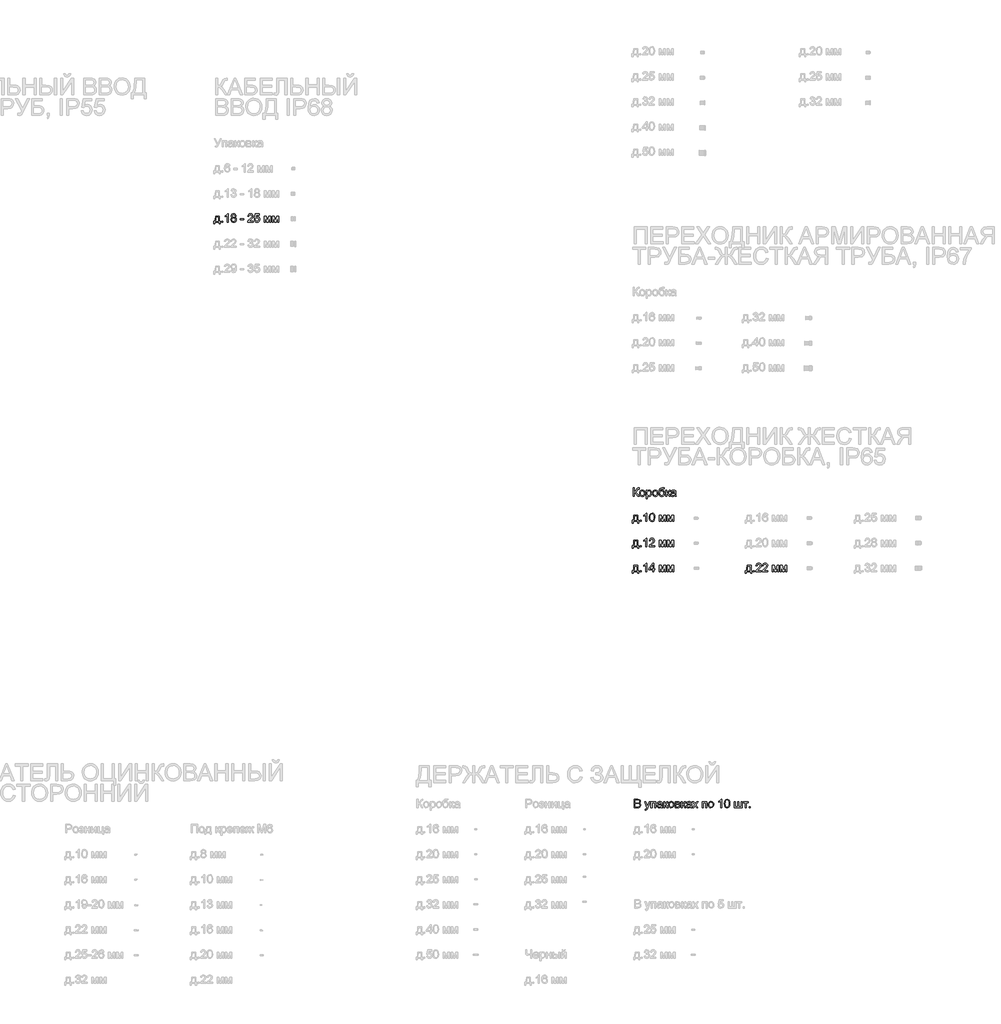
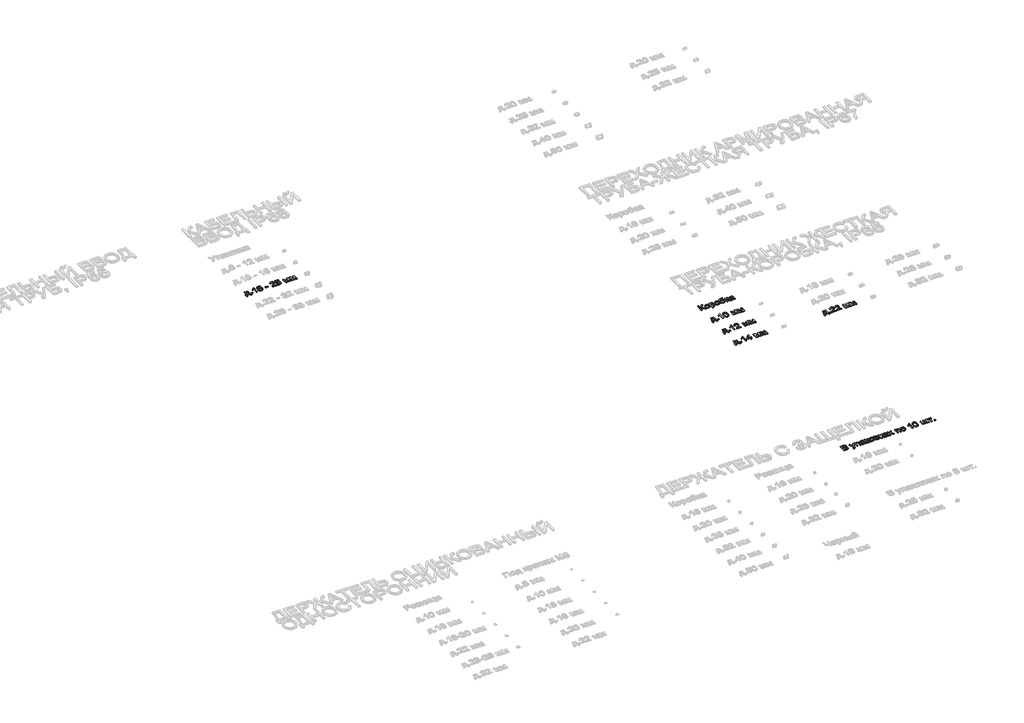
# One storey, part 54 of 98: 7 proxies.
"""IFC4 building model written with IfcOpenShell, lengths in millimetres."""

import ifcopenshell
import ifcopenshell.guid

model = None  # the IFC model being written
_history = None  # IfcOwnerHistory: only IFC2X3 demands one
_inside = {}  # id of a spatial element -> (the spatial element, [elements in it])
_under = {}  # id of a project, library or spatial element -> (it, [spatial elements below it])
_declared = {}  # id of a project -> (the project, [libraries it declares])
_typed = {}  # id of a type object -> (the type object, [elements of that type])
_made_of = {}  # id of a material, layer set ... -> (it, [elements and type objects made of it])


def new_model(schema):
    """Start an empty IFC model of exactly this schema.

    Asked for "IFC4X3", IfcOpenShell would pick the latest addendum, in which some entities
    have other attributes; the version numbers below select the first issue.
    IFC2X3 requires an IfcOwnerHistory on every rooted entity: one is made here for all.
    """
    global model, _history
    if schema == "IFC4X3":
        model = ifcopenshell.file(schema_version=(4, 3, 0, 0))
    else:
        model = ifcopenshell.file(schema=schema)
    _inside.clear()
    _under.clear()
    _declared.clear()
    _typed.clear()
    _made_of.clear()
    _history = None
    if model.schema == "IFC2X3":
        org = make("IfcOrganization", Name="unknown")
        user = make(
            "IfcPersonAndOrganization",
            ThePerson=make("IfcPerson", FamilyName="unknown"),
            TheOrganization=org,
        )
        app = make(
            "IfcApplication",
            ApplicationDeveloper=org,
            Version="unknown",
            ApplicationFullName="unknown",
            ApplicationIdentifier="unknown",
        )
        _history = make(
            "IfcOwnerHistory",
            OwningUser=user,
            OwningApplication=app,
            ChangeAction="ADDED",
            CreationDate=0,
        )
    return model


def make(cls, **values):
    """One entity of the class cls with the attributes given. An attribute that is None is left unset."""
    return model.create_entity(
        cls, **{name: value for name, value in values.items() if value is not None}
    )


def rooted(cls, **values):
    """An entity with a GlobalId (a new one), such as an element, a storey or a relation."""
    return make(cls, GlobalId=ifcopenshell.guid.new(), OwnerHistory=_history, **values)


def si_unit(unit_type, name, prefix=None):
    """IfcSIUnit, for example si_unit("LENGTHUNIT", "METRE", prefix="MILLI")."""
    return make("IfcSIUnit", UnitType=unit_type, Prefix=prefix, Name=name)


def assignment(units):
    """IfcUnitAssignment: the units of a project."""
    return None if units is None else make("IfcUnitAssignment", Units=units)


def point(xyz):
    """IfcCartesianPoint."""
    return None if xyz is None else make("IfcCartesianPoint", Coordinates=xyz)


def direction(xyz):
    """IfcDirection."""
    return None if xyz is None else make("IfcDirection", DirectionRatios=xyz)


def frame(location, z_axis=None, x_axis=None):
    """IfcAxis2Placement3D, a coordinate frame: its origin and axes. An axis left out is left unset."""
    return make(
        "IfcAxis2Placement3D",
        Location=point(location),
        Axis=direction(z_axis),
        RefDirection=direction(x_axis),
    )


def origin():
    """The frame at (0, 0, 0) with its axes left unset."""
    return frame((0.0, 0.0, 0.0))


def origin_with_axes():
    """The frame at (0, 0, 0) with the z axis (0, 0, 1) and the x axis (1, 0, 0) written out."""
    return frame((0.0, 0.0, 0.0), z_axis=(0.0, 0.0, 1.0), x_axis=(1.0, 0.0, 0.0))


def place(relative_to, where):
    """IfcLocalPlacement: puts the frame where relative to a parent placement (None: the world)."""
    return make(
        "IfcLocalPlacement", PlacementRelTo=relative_to, RelativePlacement=where
    )


def context(
    kind, dimensions, precision=None, world=None, true_north=None, identifier=None
):
    """IfcGeometricRepresentationContext, for example the 3D "Model" context."""
    return make(
        "IfcGeometricRepresentationContext",
        ContextIdentifier=identifier,
        ContextType=kind,
        CoordinateSpaceDimension=dimensions,
        Precision=precision,
        WorldCoordinateSystem=world,
        TrueNorth=true_north,
    )


def project(units=None, contexts=None):
    """IfcProject with its units and contexts."""
    return rooted(
        "IfcProject",
        Name="project",
        RepresentationContexts=contexts,
        UnitsInContext=assignment(units),
    )


def spatial(cls, under=None, at=None, **own):
    """A site, building, storey or space (cls), placed at a placement, below another one or the project."""
    s = rooted(cls, ObjectPlacement=at, **own)
    if under is not None:
        _under.setdefault(under.id(), (under, []))[1].append(s)
    return s


def polyline(points):
    """IfcPolyline through the points."""
    return make("IfcPolyline", Points=[point(p) for p in points])


def outline(outer, holes=None, kind="AREA"):
    """IfcArbitraryClosedProfileDef: a profile drawn as a closed curve; with holes, ...WithVoids."""
    if holes is None:
        return make("IfcArbitraryClosedProfileDef", ProfileType=kind, OuterCurve=outer)
    return make(
        "IfcArbitraryProfileDefWithVoids",
        ProfileType=kind,
        OuterCurve=outer,
        InnerCurves=holes,
    )


def extrude(swept, where, along, depth):
    """IfcExtrudedAreaSolid: the profile swept, set in the frame where, extruded along a direction by depth."""
    return make(
        "IfcExtrudedAreaSolid",
        SweptArea=swept,
        Position=where,
        ExtrudedDirection=direction(along),
        Depth=depth,
    )


def shape(context_of_items, identifier, shape_type, items):
    """IfcShapeRepresentation: the items that make up one representation, for example the "Body"."""
    return make(
        "IfcShapeRepresentation",
        ContextOfItems=context_of_items,
        RepresentationIdentifier=identifier,
        RepresentationType=shape_type,
        Items=items,
    )


def made_of(thing, what):
    """Note that an element or type object is made of a material, layer set ...; save() writes the relation."""
    if what is not None:
        _made_of.setdefault(what.id(), (what, []))[1].append(thing)
    return thing


def element(
    cls,
    number,
    at=None,
    inside=None,
    cuts=None,
    type_object=None,
    material=None,
    context=None,
    identifier="Body",
    shape_type=None,
    held_by="IfcProductDefinitionShape",
    body=None,
    shapes=None,
    **own,
):
    """One element of the class cls, such as IfcWall. Its Tag is "e" and its number.

    at: its placement. inside: the storey or other place that contains it. cuts: it is an
    opening in that element (IfcRelVoidsElement). A single representation is given by context,
    identifier, shape_type and body (its items); several are given by shapes. held_by: the class
    of the entity that holds the representations. save() writes the other relations.
    """
    e = rooted(cls, Tag="e%d" % number, ObjectPlacement=at, **own)
    if body is not None:
        shapes = [shape(context, identifier, shape_type, body)]
    if shapes is not None:
        e.Representation = make(held_by, Representations=shapes)
    if inside is not None:
        _inside.setdefault(inside.id(), (inside, []))[1].append(e)
    if cuts is not None:
        rooted(
            "IfcRelVoidsElement", RelatingBuildingElement=cuts, RelatedOpeningElement=e
        )
    if type_object is not None:
        _typed.setdefault(type_object.id(), (type_object, []))[1].append(e)
    return made_of(e, material)


def aggregate(whole, parts):
    """IfcRelAggregates: a whole, such as a stair, and the parts it consists of."""
    return rooted("IfcRelAggregates", RelatingObject=whole, RelatedObjects=parts)


def save(model, path):
    """Write the relations noted so far, then the file.

    IfcRelAggregates (storeys below a building ...), IfcRelContainedInSpatialStructure (elements
    in a storey), IfcRelDefinesByType, IfcRelAssociatesMaterial and IfcRelDeclares: one each for
    every whole, place, type object, material and project.
    """
    for whole, parts in _under.values():
        aggregate(whole, parts)
    for where, things in _inside.values():
        rooted(
            "IfcRelContainedInSpatialStructure",
            RelatedElements=things,
            RelatingStructure=where,
        )
    for kind, things in _typed.values():
        rooted("IfcRelDefinesByType", RelatedObjects=things, RelatingType=kind)
    for what, things in _made_of.values():
        rooted("IfcRelAssociatesMaterial", RelatedObjects=things, RelatingMaterial=what)
    for by, libraries in _declared.values():
        rooted("IfcRelDeclares", RelatingContext=by, RelatedDefinitions=libraries)
    model.write(path)


model = new_model("IFC4")

# Units and contexts
model_context = context("Model", 3, world=origin())
ifc_project = project(units=[si_unit("LENGTHUNIT", "METRE", prefix="MILLI")], contexts=[model_context])

# Site, building, storey
site = spatial("IfcSite", under=ifc_project)
building = spatial("IfcBuilding", under=site)
storey = spatial("IfcBuildingStorey", under=building, Name="Этаж 01", Elevation=0.0)

# Proxies
placement = place(None, origin())
element("IfcBuildingElementProxy", 1, Name="100", ObjectType="100", at=placement, inside=storey, context=model_context, shape_type="SweptSolid", body=[
    extrude(outline(polyline([(8349.7389883, -28137.0810385), (8362.2960271, -28137.0810385), (8362.2960271, -28181.0306742), (8376.3368566, -28177.7074735), (8386.1347804, -28160.8952663), (8393.0632246, -28146.8544368), (8400.9113739, -28139.9014671), (8412.1317747, -28137.0810385), (8420.3723314, -28137.2281913), (8420.3723314, -28149.78523), (8417.6009537, -28149.7116536), (8414.829576, -28149.6380772), (8405.0193895, -28152.6547096), (8397.5636477, -28165.5796304), (8388.6731662, -28181.3249798), (8380.0034138, -28186.5243786), (8389.6971044, -28192.2020241), (8399.2559049, -28204.0355616), (8420.3723314, -28237.5373486), (8405.8042044, -28237.5373486), (8387.9496649, -28209.2349605), (8375.3803634, -28194.458367), (8362.2960271, -28190.4484532), (8362.2960271, -28237.5373486), (8349.7389883, -28237.5373486), (8349.7389883, -28137.0810385)])), origin_with_axes(), (0.0, 0.0, 1.0), 10.0),
    extrude(outline(polyline([(8426.6508508, -28200.6510472), (8429.3670462, -28182.8639528), (8437.5156324, -28170.3620963), (8447.5833363, -28164.2368611), (8459.637603, -28162.195116), (8472.8292382, -28164.6813852), (8483.3659917, -28172.1401926), (8490.2729762, -28183.9829272), (8492.5753043, -28199.6209776), (8488.5040769, -28221.9636775), (8476.6460139, -28234.6065554), (8459.637603, -28239.1069785), (8446.2865523, -28236.6299064), (8435.7620615, -28229.1986901), (8428.9286535, -28217.1076351), (8426.6508508, -28200.6510472)]), holes=[polyline([(8439.2078896, -28200.6265218), (8440.6610235, -28211.9910097), (8445.0204251, -28220.0874793), (8451.5809873, -28224.9343246), (8459.637603, -28226.5499397), (8467.6574305, -28224.9251275), (8474.20573, -28220.0506911), (8478.5651317, -28211.8469226), (8480.0182656, -28200.2341143), (8478.5559346, -28189.2007201), (8474.1689418, -28181.2146152), (8467.6114453, -28176.3677699), (8459.637603, -28174.7521548), (8451.5809873, -28176.3616385), (8445.0204251, -28181.1900897), (8440.6610235, -28189.2681652), (8439.2078896, -28200.6265218)])]), origin_with_axes(), (0.0, 0.0, 1.0), 10.0),
    extrude(outline(polyline([(8506.701973, -28265.7906858), (8506.701973, -28163.7647458), (8519.2590117, -28163.7647458), (8519.2590117, -28176.07653), (8527.9410268, -28165.6654695), (8539.6641997, -28162.195116), (8555.5812274, -28167.0511583), (8565.9800251, -28180.7363686), (8569.4871668, -28200.0869615), (8565.526304, -28220.4308358), (8554.0238603, -28234.2877243), (8538.1436208, -28239.1069785), (8527.2175256, -28235.8818796), (8519.2590117, -28227.7271621), (8519.2590117, -28265.7906858), (8506.701973, -28265.7906858)]), holes=[polyline([(8519.2590117, -28201.2396584), (8520.6171094, -28212.4968475), (8524.6914025, -28220.3695222), (8530.7032075, -28225.0048353), (8537.8738407, -28226.5499397), (8545.1609699, -28224.949653), (8551.326059, -28220.148793), (8555.5291108, -28211.987944), (8556.930128, -28200.3076907), (8555.5628333, -28189.1118153), (8551.460949, -28181.128776), (8545.4583411, -28176.3463101), (8538.3888755, -28174.7521548), (8531.2918186, -28176.4474776), (8525.0592845, -28181.5334462), (8520.7090799, -28189.850645), (8519.2590117, -28201.2396584)])]), origin_with_axes(), (0.0, 0.0, 1.0), 10.0),
    extrude(outline(polyline([(8580.4745757, -28200.6510472), (8583.1907711, -28182.8639528), (8591.3393573, -28170.3620963), (8601.4070612, -28164.2368611), (8613.461328, -28162.195116), (8626.6529632, -28164.6813852), (8637.1897166, -28172.1401926), (8644.0967011, -28183.9829272), (8646.3990293, -28199.6209776), (8642.3278018, -28221.9636775), (8630.4697389, -28234.6065554), (8613.461328, -28239.1069785), (8600.1102772, -28236.6299064), (8589.5857865, -28229.1986901), (8582.7523784, -28217.1076351), (8580.4745757, -28200.6510472)]), holes=[polyline([(8593.0316145, -28200.6265218), (8594.4847484, -28211.9910097), (8598.84415, -28220.0874793), (8605.4047123, -28224.9343246), (8613.461328, -28226.5499397), (8621.4811554, -28224.9251275), (8628.029455, -28220.0506911), (8632.3888566, -28211.8469226), (8633.8419905, -28200.2341143), (8632.3796596, -28189.2007201), (8627.9926668, -28181.2146152), (8621.4351702, -28176.3677699), (8613.461328, -28174.7521548), (8605.4047123, -28176.3616385), (8598.84415, -28181.1900897), (8594.4847484, -28189.2681652), (8593.0316145, -28200.6265218)])]), origin_with_axes(), (0.0, 0.0, 1.0), 10.0),
    extrude(outline(polyline([(8712.3234828, -28135.5114086), (8723.3108917, -28135.5114086), (8720.0735302, -28145.3093324), (8713.6723834, -28148.8532623), (8698.294916, -28149.6380772), (8677.5831597, -28152.5320823), (8669.6369086, -28161.8027085), (8666.9513701, -28178.2102455), (8677.8284144, -28166.192767), (8691.8447184, -28162.195116), (8704.9106606, -28164.7365675), (8715.5117934, -28172.3609218), (8722.5383395, -28184.3201523), (8724.8805216, -28199.8662323), (8720.2329457, -28221.4731682), (8709.2087486, -28234.5084535), (8691.8447184, -28239.1069785), (8680.5108873, -28237.6262534), (8672.0158789, -28233.1840783), (8661.16336, -28218.0273401), (8657.3864382, -28185.862191), (8659.7684741, -28161.768986), (8666.9145819, -28147.075166), (8679.0025711, -28139.5795703), (8696.2102514, -28137.0810385), (8710.1897672, -28136.7989956), (8712.3234828, -28135.5114086)]), holes=[polyline([(8712.3234828, -28199.4738248), (8710.9623194, -28189.5931276), (8706.8788293, -28181.680599), (8700.318267, -28176.4842658), (8691.5258873, -28174.7521548), (8682.3594943, -28176.5823677), (8675.5598087, -28182.0730065), (8671.3475599, -28190.6231972), (8669.9434769, -28201.6320659), (8671.4947127, -28212.3037094), (8676.1484199, -28220.1365302), (8683.0768642, -28224.9465873), (8691.4523109, -28226.5499397), (8699.8706773, -28224.6952013), (8706.5354727, -28219.1309861), (8710.8764803, -28210.507219), (8712.3234828, -28199.4738248)])]), origin_with_axes(), (0.0, 0.0, 1.0), 10.0),
    extrude(outline(polyline([(8740.57682, -28163.7647458), (8753.1338588, -28163.7647458), (8753.1338588, -28195.1573428), (8761.5460937, -28192.9009999), (8768.4377498, -28179.7553499), (8774.1644462, -28168.4123217), (8779.2166922, -28164.721239), (8788.4014794, -28163.7647458), (8790.8049751, -28163.7647458), (8790.8049751, -28176.395361), (8787.4204607, -28176.3217846), (8781.2890942, -28177.6461598), (8776.9726121, -28185.911242), (8771.9081033, -28194.8507744), (8764.8079808, -28199.2285702), (8772.7297064, -28204.1152694), (8780.5042792, -28214.4098338), (8793.9442348, -28237.5373486), (8779.6704134, -28237.5373486), (8766.5002379, -28214.9003432), (8759.878362, -28205.3231486), (8753.1338588, -28203.005492), (8753.1338588, -28237.5373486), (8740.57682, -28237.5373486), (8740.57682, -28163.7647458)])), origin_with_axes(), (0.0, 0.0, 1.0), 10.0),
    extrude(outline(polyline([(8848.8812794, -28228.1195695), (8836.7043854, -28236.6299064), (8823.2521671, -28239.1069785), (8812.7583332, -28237.6170564), (8805.0174828, -28233.1472901), (8800.244214, -28226.3598673), (8798.6531243, -28217.9169755), (8801.05662, -28207.9841617), (8807.3719276, -28200.7736746), (8816.1643073, -28196.6533962), (8827.0290889, -28194.7649353), (8848.807703, -28190.4484532), (8848.8812794, -28187.6525501), (8845.4231886, -28178.3819238), (8831.5417747, -28174.7521548), (8818.8375831, -28177.1679132), (8812.7797929, -28185.7395637), (8800.2227542, -28184.1699338), (8805.655145, -28171.9072007), (8816.593503, -28164.721239), (8833.1604555, -28162.195116), (8848.3785073, -28164.4269334), (8856.9746833, -28170.0310025), (8860.8251815, -28178.5536021), (8861.4383182, -28189.541011), (8861.4383182, -28205.163733), (8862.0759803, -28226.9791354), (8864.5775779, -28237.5373486), (8852.0205391, -28237.5373486), (8848.8812794, -28228.1195695)]), holes=[polyline([(8848.8812794, -28203.005492), (8828.6232442, -28206.8559902), (8817.8197763, -28208.8916039), (8812.9269457, -28212.2025419), (8811.2101631, -28217.0340587), (8814.9502967, -28223.8276129), (8825.9254429, -28226.5499397), (8838.6296345, -28223.5455701), (8846.8211402, -28216.2737693), (8848.807703, -28206.5616846), (8848.8812794, -28203.005492)])]), origin_with_axes(), (0.0, 0.0, 1.0), 10.0),
])
element("IfcBuildingElementProxy", 2, Name="100", ObjectType="100", at=placement, inside=storey, context=model_context, shape_type="SweptSolid", body=[
    extrude(outline(polyline([(8359.1567674, -28463.7647458), (8406.2456628, -28463.7647458), (8406.2456628, -28524.9803098), (8415.6634419, -28524.9803098), (8415.6634419, -28557.9425366), (8403.1064031, -28557.9425366), (8403.1064031, -28537.5373486), (8351.3086182, -28537.5373486), (8351.3086182, -28557.9425366), (8338.7515794, -28557.9425366), (8338.7515794, -28524.9803098), (8346.5997287, -28524.9803098), (8356.2995506, -28501.031192), (8359.1567674, -28463.7647458)]), holes=[polyline([(8370.1441763, -28476.3217846), (8367.2011204, -28504.9307411), (8360.7263973, -28524.9803098), (8393.688624, -28524.9803098), (8393.688624, -28476.3217846), (8370.1441763, -28476.3217846)])]), origin_with_axes(), (0.0, 0.0, 1.0), 10.0),
    extrude(outline(polyline([(8432.9293702, -28537.5373486), (8432.9293702, -28524.9803098), (8445.486409, -28524.9803098), (8445.486409, -28537.5373486), (8432.9293702, -28537.5373486)])), origin_with_axes(), (0.0, 0.0, 1.0), 10.0),
    extrude(outline(polyline([(8512.9804923, -28537.5373486), (8500.4234536, -28537.5373486), (8500.4234536, -28459.25206), (8488.5286024, -28467.7256087), (8475.309376, -28474.0654417), (8475.309376, -28462.195116), (8493.7157385, -28450.4474176), (8504.8870884, -28437.0810385), (8512.9804923, -28437.0810385), (8512.9804923, -28537.5373486)])), origin_with_axes(), (0.0, 0.0, 1.0), 10.0),
    extrude(outline(polyline([(8542.8034594, -28488.1185339), (8546.4945421, -28459.2152718), (8557.4574256, -28442.5502175), (8575.7656862, -28437.0810385), (8590.4319151, -28440.3184), (8600.5609327, -28449.65034), (8606.4470446, -28464.5127726), (8608.7279129, -28488.1185339), (8605.0736185, -28516.8991687), (8594.1475232, -28533.6010113), (8585.9161636, -28537.7304867), (8575.7656862, -28539.1069785), (8562.7181381, -28536.7157455), (8552.8098497, -28529.5420466), (8545.305057, -28512.5520298), (8542.8034594, -28488.1185339)]), holes=[polyline([(8555.3604982, -28488.0940085), (8556.8320262, -28507.8462059), (8561.2466101, -28519.2781389), (8567.8194351, -28524.7319895), (8575.7656862, -28526.5499397), (8583.7119373, -28524.7258581), (8590.2847623, -28519.2536135), (8594.6993462, -28507.8155491), (8596.1708742, -28488.0940085), (8594.7483971, -28468.7863351), (8590.480966, -28457.2654973), (8583.9204037, -28451.5449322), (8575.6185334, -28449.6380772), (8567.7581214, -28451.3180717), (8561.4428138, -28456.358055), (8556.8810771, -28468.5962627), (8555.3604982, -28488.0940085)])]), origin_with_axes(), (0.0, 0.0, 1.0), 10.0),
    extrude(outline(polyline([(8662.0953277, -28463.7647458), (8683.7022636, -28463.7647458), (8700.3550552, -28522.8220688), (8718.3076966, -28463.7647458), (8739.0071902, -28463.7647458), (8739.0071902, -28537.5373486), (8726.4501514, -28537.5373486), (8726.4501514, -28478.1366691), (8708.3994082, -28537.5373486), (8691.9182948, -28537.5373486), (8674.6523665, -28475.291715), (8674.6523665, -28537.5373486), (8662.0953277, -28537.5373486), (8662.0953277, -28463.7647458)])), origin_with_axes(), (0.0, 0.0, 1.0), 10.0),
    extrude(outline(polyline([(8757.8427483, -28463.7647458), (8779.4496842, -28463.7647458), (8796.1024758, -28522.8220688), (8814.0551172, -28463.7647458), (8834.7546108, -28463.7647458), (8834.7546108, -28537.5373486), (8822.197572, -28537.5373486), (8822.197572, -28478.1366691), (8804.1468288, -28537.5373486), (8787.6657154, -28537.5373486), (8770.3997871, -28475.291715), (8770.3997871, -28537.5373486), (8757.8427483, -28537.5373486), (8757.8427483, -28463.7647458)])), origin_with_axes(), (0.0, 0.0, 1.0), 10.0),
])
element("IfcBuildingElementProxy", 3, Name="100", ObjectType="100", at=placement, inside=storey, context=model_context, shape_type="SweptSolid", body=[
    extrude(outline(polyline([(8359.1567674, -28763.7647458), (8406.2456628, -28763.7647458), (8406.2456628, -28824.9803098), (8415.6634419, -28824.9803098), (8415.6634419, -28857.9425366), (8403.1064031, -28857.9425366), (8403.1064031, -28837.5373486), (8351.3086182, -28837.5373486), (8351.3086182, -28857.9425366), (8338.7515794, -28857.9425366), (8338.7515794, -28824.9803098), (8346.5997287, -28824.9803098), (8356.2995506, -28801.031192), (8359.1567674, -28763.7647458)]), holes=[polyline([(8370.1441763, -28776.3217846), (8367.2011204, -28804.9307411), (8360.7263973, -28824.9803098), (8393.688624, -28824.9803098), (8393.688624, -28776.3217846), (8370.1441763, -28776.3217846)])]), origin_with_axes(), (0.0, 0.0, 1.0), 10.0),
    extrude(outline(polyline([(8432.9293702, -28837.5373486), (8432.9293702, -28824.9803098), (8445.486409, -28824.9803098), (8445.486409, -28837.5373486), (8432.9293702, -28837.5373486)])), origin_with_axes(), (0.0, 0.0, 1.0), 10.0),
    extrude(outline(polyline([(8512.9804923, -28837.5373486), (8500.4234536, -28837.5373486), (8500.4234536, -28759.25206), (8488.5286024, -28767.7256087), (8475.309376, -28774.0654417), (8475.309376, -28762.195116), (8493.7157385, -28750.4474176), (8504.8870884, -28737.0810385), (8512.9804923, -28737.0810385), (8512.9804923, -28837.5373486)])), origin_with_axes(), (0.0, 0.0, 1.0), 10.0),
    extrude(outline(polyline([(8607.1582831, -28824.9803098), (8607.1582831, -28837.5373486), (8541.2338296, -28837.5373486), (8542.5827302, -28828.879859), (8550.2101502, -28815.550268), (8565.9309742, -28800.9944038), (8587.6114864, -28780.074181), (8593.0316145, -28765.8494105), (8587.9180548, -28754.334704), (8574.5639383, -28749.6380772), (8560.6457362, -28754.2243394), (8555.3604982, -28766.9040055), (8542.8034594, -28765.3343757), (8545.8476829, -28753.1881385), (8552.429705, -28744.316051), (8562.206169, -28738.8897916), (8574.8337185, -28737.0810385), (8587.5532384, -28739.0921267), (8597.3113084, -28745.1253914), (8603.519317, -28754.1385003), (8605.5886533, -28765.089121), (8603.3568358, -28776.9962349), (8595.9378822, -28789.308019), (8577.9484527, -28806.5126337), (8563.502953, -28818.5914259), (8557.8375703, -28824.9803098), (8607.1582831, -28824.9803098)])), origin_with_axes(), (0.0, 0.0, 1.0), 10.0),
    extrude(outline(polyline([(8662.0953277, -28763.7647458), (8683.7022636, -28763.7647458), (8700.3550552, -28822.8220688), (8718.3076966, -28763.7647458), (8739.0071902, -28763.7647458), (8739.0071902, -28837.5373486), (8726.4501514, -28837.5373486), (8726.4501514, -28778.1366691), (8708.3994082, -28837.5373486), (8691.9182948, -28837.5373486), (8674.6523665, -28775.291715), (8674.6523665, -28837.5373486), (8662.0953277, -28837.5373486), (8662.0953277, -28763.7647458)])), origin_with_axes(), (0.0, 0.0, 1.0), 10.0),
    extrude(outline(polyline([(8757.8427483, -28763.7647458), (8779.4496842, -28763.7647458), (8796.1024758, -28822.8220688), (8814.0551172, -28763.7647458), (8834.7546108, -28763.7647458), (8834.7546108, -28837.5373486), (8822.197572, -28837.5373486), (8822.197572, -28778.1366691), (8804.1468288, -28837.5373486), (8787.6657154, -28837.5373486), (8770.3997871, -28775.291715), (8770.3997871, -28837.5373486), (8757.8427483, -28837.5373486), (8757.8427483, -28763.7647458)])), origin_with_axes(), (0.0, 0.0, 1.0), 10.0),
])
element("IfcBuildingElementProxy", 4, Name="100", ObjectType="100", at=placement, inside=storey, context=model_context, shape_type="SweptSolid", body=[
    extrude(outline(polyline([(8359.1567674, -29063.7647458), (8406.2456628, -29063.7647458), (8406.2456628, -29124.9803098), (8415.6634419, -29124.9803098), (8415.6634419, -29157.9425366), (8403.1064031, -29157.9425366), (8403.1064031, -29137.5373486), (8351.3086182, -29137.5373486), (8351.3086182, -29157.9425366), (8338.7515794, -29157.9425366), (8338.7515794, -29124.9803098), (8346.5997287, -29124.9803098), (8356.2995506, -29101.031192), (8359.1567674, -29063.7647458)]), holes=[polyline([(8370.1441763, -29076.3217846), (8367.2011204, -29104.9307411), (8360.7263973, -29124.9803098), (8393.688624, -29124.9803098), (8393.688624, -29076.3217846), (8370.1441763, -29076.3217846)])]), origin_with_axes(), (0.0, 0.0, 1.0), 10.0),
    extrude(outline(polyline([(8432.9293702, -29137.5373486), (8432.9293702, -29124.9803098), (8445.486409, -29124.9803098), (8445.486409, -29137.5373486), (8432.9293702, -29137.5373486)])), origin_with_axes(), (0.0, 0.0, 1.0), 10.0),
    extrude(outline(polyline([(8512.9804923, -29137.5373486), (8500.4234536, -29137.5373486), (8500.4234536, -29059.25206), (8488.5286024, -29067.7256087), (8475.309376, -29074.0654417), (8475.309376, -29062.195116), (8493.7157385, -29050.4474176), (8504.8870884, -29037.0810385), (8512.9804923, -29037.0810385), (8512.9804923, -29137.5373486)])), origin_with_axes(), (0.0, 0.0, 1.0), 10.0),
    extrude(outline(polyline([(8583.6138354, -29137.5373486), (8583.6138354, -29113.9929009), (8538.0945699, -29113.9929009), (8538.0945699, -29101.4358622), (8586.7530951, -29038.6506683), (8596.1708742, -29038.6506683), (8596.1708742, -29101.4358622), (8608.7279129, -29101.4358622), (8608.7279129, -29113.9929009), (8596.1708742, -29113.9929009), (8596.1708742, -29137.5373486), (8583.6138354, -29137.5373486)]), holes=[polyline([(8583.6138354, -29101.4358622), (8583.6138354, -29062.6365744), (8553.5456137, -29101.4358622), (8583.6138354, -29101.4358622)])]), origin_with_axes(), (0.0, 0.0, 1.0), 10.0),
    extrude(outline(polyline([(8662.0953277, -29063.7647458), (8683.7022636, -29063.7647458), (8700.3550552, -29122.8220688), (8718.3076966, -29063.7647458), (8739.0071902, -29063.7647458), (8739.0071902, -29137.5373486), (8726.4501514, -29137.5373486), (8726.4501514, -29078.1366691), (8708.3994082, -29137.5373486), (8691.9182948, -29137.5373486), (8674.6523665, -29075.291715), (8674.6523665, -29137.5373486), (8662.0953277, -29137.5373486), (8662.0953277, -29063.7647458)])), origin_with_axes(), (0.0, 0.0, 1.0), 10.0),
    extrude(outline(polyline([(8757.8427483, -29063.7647458), (8779.4496842, -29063.7647458), (8796.1024758, -29122.8220688), (8814.0551172, -29063.7647458), (8834.7546108, -29063.7647458), (8834.7546108, -29137.5373486), (8822.197572, -29137.5373486), (8822.197572, -29078.1366691), (8804.1468288, -29137.5373486), (8787.6657154, -29137.5373486), (8770.3997871, -29075.291715), (8770.3997871, -29137.5373486), (8757.8427483, -29137.5373486), (8757.8427483, -29063.7647458)])), origin_with_axes(), (0.0, 0.0, 1.0), 10.0),
])
element("IfcBuildingElementProxy", 5, Name="100", ObjectType="100", at=placement, inside=storey, context=model_context, shape_type="SweptSolid", body=[
    extrude(outline(polyline([(9711.8671726, -29063.7647458), (9758.956068, -29063.7647458), (9758.956068, -29124.9803098), (9768.3738471, -29124.9803098), (9768.3738471, -29157.9425366), (9755.8168083, -29157.9425366), (9755.8168083, -29137.5373486), (9704.0190234, -29137.5373486), (9704.0190234, -29157.9425366), (9691.4619846, -29157.9425366), (9691.4619846, -29124.9803098), (9699.3101339, -29124.9803098), (9709.0099558, -29101.031192), (9711.8671726, -29063.7647458)]), holes=[polyline([(9722.8545816, -29076.3217846), (9719.9115256, -29104.9307411), (9713.4368025, -29124.9803098), (9746.3990293, -29124.9803098), (9746.3990293, -29076.3217846), (9722.8545816, -29076.3217846)])]), origin_with_axes(), (0.0, 0.0, 1.0), 10.0),
    extrude(outline(polyline([(9785.6397754, -29137.5373486), (9785.6397754, -29124.9803098), (9798.1968142, -29124.9803098), (9798.1968142, -29137.5373486), (9785.6397754, -29137.5373486)])), origin_with_axes(), (0.0, 0.0, 1.0), 10.0),
    extrude(outline(polyline([(9882.9568259, -29124.9803098), (9882.9568259, -29137.5373486), (9817.0323723, -29137.5373486), (9818.381273, -29128.879859), (9826.008693, -29115.550268), (9841.7295169, -29100.9944038), (9863.4100292, -29080.074181), (9868.8301572, -29065.8494105), (9863.7165975, -29054.334704), (9850.3624811, -29049.6380772), (9836.4442789, -29054.2243394), (9831.1590409, -29066.9040055), (9818.6020022, -29065.3343757), (9821.6462257, -29053.1881385), (9828.2282477, -29044.316051), (9838.0047117, -29038.8897916), (9850.6322612, -29037.0810385), (9863.3517812, -29039.0921267), (9873.1098511, -29045.1253914), (9879.3178598, -29054.1385003), (9881.387196, -29065.089121), (9879.1553786, -29076.9962349), (9871.736425, -29089.308019), (9853.7469954, -29106.5126337), (9839.3014958, -29118.5914259), (9833.636113, -29124.9803098), (9882.9568259, -29124.9803098)])), origin_with_axes(), (0.0, 0.0, 1.0), 10.0),
    extrude(outline(polyline([(9959.8686883, -29124.9803098), (9959.8686883, -29137.5373486), (9893.9442348, -29137.5373486), (9895.2931354, -29128.879859), (9902.9205555, -29115.550268), (9918.6413794, -29100.9944038), (9940.3218916, -29080.074181), (9945.7420197, -29065.8494105), (9940.62846, -29054.334704), (9927.2743435, -29049.6380772), (9913.3561414, -29054.2243394), (9908.0709034, -29066.9040055), (9895.5138646, -29065.3343757), (9898.5580881, -29053.1881385), (9905.1401102, -29044.316051), (9914.9165742, -29038.8897916), (9927.5441237, -29037.0810385), (9940.2636437, -29039.0921267), (9950.0217136, -29045.1253914), (9956.2297223, -29054.1385003), (9958.2990585, -29065.089121), (9956.067241, -29076.9962349), (9948.6482875, -29089.308019), (9930.6588579, -29106.5126337), (9916.2133582, -29118.5914259), (9910.5479755, -29124.9803098), (9959.8686883, -29124.9803098)])), origin_with_axes(), (0.0, 0.0, 1.0), 10.0),
    extrude(outline(polyline([(10014.8057329, -29063.7647458), (10036.4126688, -29063.7647458), (10053.0654604, -29122.8220688), (10071.0181018, -29063.7647458), (10091.7175954, -29063.7647458), (10091.7175954, -29137.5373486), (10079.1605566, -29137.5373486), (10079.1605566, -29078.1366691), (10061.1098134, -29137.5373486), (10044.6287, -29137.5373486), (10027.3627717, -29075.291715), (10027.3627717, -29137.5373486), (10014.8057329, -29137.5373486), (10014.8057329, -29063.7647458)])), origin_with_axes(), (0.0, 0.0, 1.0), 10.0),
    extrude(outline(polyline([(10110.5531535, -29063.7647458), (10132.1600894, -29063.7647458), (10148.812881, -29122.8220688), (10166.7655224, -29063.7647458), (10187.465016, -29063.7647458), (10187.465016, -29137.5373486), (10174.9079772, -29137.5373486), (10174.9079772, -29078.1366691), (10156.857234, -29137.5373486), (10140.3761206, -29137.5373486), (10123.1101923, -29075.291715), (10123.1101923, -29137.5373486), (10110.5531535, -29137.5373486), (10110.5531535, -29063.7647458)])), origin_with_axes(), (0.0, 0.0, 1.0), 10.0),
])
element("IfcBuildingElementProxy", 6, Name="100", ObjectType="100", at=placement, inside=storey, context=model_context, shape_type="SweptSolid", body=[
    extrude(outline(polyline([(8365.3429127, -31959.5121665), (8365.3429127, -31859.0558563), (8403.6762166, -31859.0558563), (8422.4504611, -31862.011175), (8433.5359719, -31871.0978603), (8437.5458857, -31883.9492046), (8434.173634, -31895.6846403), (8423.9833028, -31904.5751218), (8436.3564006, -31913.94385), (8440.6851454, -31929.5665721), (8437.7298267, -31943.0678413), (8430.408975, -31952.6818241), (8419.4828797, -31957.7831211), (8403.3819111, -31959.5121665), (8365.3429127, -31959.5121665)]), holes=[polyline([(8377.8999515, -31899.8662323), (8400.8312626, -31899.8662323), (8414.2221672, -31898.7871118), (8422.2787829, -31894.1395359), (8424.9888469, -31885.9602929), (8422.4627239, -31877.7687871), (8415.2277113, -31872.9250075), (8399.0899544, -31871.6128951), (8377.8999515, -31871.6128951), (8377.8999515, -31899.8662323)]), polyline([(8377.8999515, -31946.9551277), (8403.6516912, -31946.9551277), (8412.9713684, -31946.4646184), (8420.8563058, -31943.7300289), (8426.0802302, -31938.1504853), (8428.1281066, -31929.6891994), (8425.7246109, -31919.9280638), (8417.9377753, -31914.1032655), (8402.4254179, -31912.4232711), (8377.8999515, -31912.4232711), (8377.8999515, -31946.9551277)])]), origin_with_axes(), (0.0, 0.0, 1.0), 10.0),
    extrude(outline(polyline([(8495.62219, -31987.7655037), (8494.0525601, -31975.6744488), (8500.4291814, -31976.7780948), (8506.3888697, -31975.3924059), (8510.0431642, -31971.529645), (8513.4767295, -31962.2835442), (8514.4577481, -31959.2423863), (8487.7740407, -31885.7395637), (8501.0177926, -31885.7395637), (8515.1689867, -31926.6970925), (8520.0986054, -31943.080104), (8525.0282241, -31928.6100789), (8539.5718257, -31885.7395637), (8552.7174756, -31885.7395637), (8527.0393124, -31961.278), (8520.3683855, -31977.6610116), (8513.084322, -31986.5147049), (8503.2986609, -31989.3351335), (8495.62219, -31987.7655037)])), origin_with_axes(), (0.0, 0.0, 1.0), 10.0),
    extrude(outline(polyline([(8563.1162734, -31885.7395637), (8619.6229478, -31885.7395637), (8619.6229478, -31959.5121665), (8607.065909, -31959.5121665), (8607.065909, -31898.2966025), (8575.6733121, -31898.2966025), (8575.6733121, -31959.5121665), (8563.1162734, -31959.5121665), (8563.1162734, -31885.7395637)])), origin_with_axes(), (0.0, 0.0, 1.0), 10.0),
    extrude(outline(polyline([(8685.5474014, -31950.0943874), (8673.3705073, -31958.6047242), (8659.918289, -31961.0817963), (8649.4244551, -31959.5918742), (8641.6836048, -31955.122108), (8636.9103359, -31948.3346852), (8635.3192463, -31939.8917934), (8637.722742, -31929.9589795), (8644.0380496, -31922.7484924), (8652.8304292, -31918.6282141), (8663.6952108, -31916.7397532), (8685.473825, -31912.4232711), (8685.5474014, -31909.6273679), (8682.0893106, -31900.3567416), (8668.2078966, -31896.7269726), (8655.5037051, -31899.1427311), (8649.4459149, -31907.7143815), (8636.8888761, -31906.1447517), (8642.3212669, -31893.8820185), (8653.2596249, -31886.6960569), (8669.8265774, -31884.1699338), (8685.0446293, -31886.4017513), (8693.6408052, -31892.0058203), (8697.4913035, -31900.5284199), (8698.1044401, -31911.5158288), (8698.1044401, -31927.1385509), (8698.7421022, -31948.9539532), (8701.2436998, -31959.5121665), (8688.686661, -31959.5121665), (8685.5474014, -31950.0943874)]), holes=[polyline([(8685.5474014, -31924.9803098), (8665.2893661, -31928.8308081), (8654.4858982, -31930.8664218), (8649.5930677, -31934.1773597), (8647.876285, -31939.0088766), (8651.6164187, -31945.8024308), (8662.5915649, -31948.5247575), (8675.2957564, -31945.5203879), (8683.4872622, -31938.2485871), (8685.473825, -31928.5365025), (8685.5474014, -31924.9803098)])]), origin_with_axes(), (0.0, 0.0, 1.0), 10.0),
    extrude(outline(polyline([(8715.3703684, -31885.7395637), (8727.9274072, -31885.7395637), (8727.9274072, -31917.1321606), (8736.3396422, -31914.8758177), (8743.2312982, -31901.7301677), (8748.9579946, -31890.3871396), (8754.0102407, -31886.6960569), (8763.1950278, -31885.7395637), (8765.5985235, -31885.7395637), (8765.5985235, -31898.3701789), (8762.2140091, -31898.2966025), (8756.0826426, -31899.6209776), (8751.7661605, -31907.8860598), (8746.7016517, -31916.8255923), (8739.6015292, -31921.203388), (8747.5232548, -31926.0900872), (8755.2978276, -31936.3846517), (8768.7377832, -31959.5121665), (8754.4639618, -31959.5121665), (8741.2937864, -31936.875161), (8734.6719104, -31927.2979664), (8727.9274072, -31924.9803098), (8727.9274072, -31959.5121665), (8715.3703684, -31959.5121665), (8715.3703684, -31885.7395637)])), origin_with_axes(), (0.0, 0.0, 1.0), 10.0),
    extrude(outline(polyline([(8773.4466727, -31922.6258651), (8776.1628681, -31904.8387706), (8784.3114543, -31892.3369141), (8794.3791583, -31886.2116789), (8806.433425, -31884.1699338), (8819.6250602, -31886.656203), (8830.1618137, -31894.1150104), (8837.0687981, -31905.957745), (8839.3711263, -31921.5957955), (8835.2998989, -31943.9384953), (8823.4418359, -31956.5813732), (8806.433425, -31961.0817963), (8793.0823742, -31958.6047242), (8782.5578835, -31951.1735079), (8775.7244754, -31939.082453), (8773.4466727, -31922.6258651)]), holes=[polyline([(8786.0037115, -31922.6013396), (8787.4568454, -31933.9658276), (8791.816247, -31942.0622972), (8798.3768093, -31946.9091424), (8806.433425, -31948.5247575), (8814.4532525, -31946.8999454), (8821.001552, -31942.025509), (8825.3609536, -31933.8217405), (8826.8140875, -31922.2089321), (8825.3517566, -31911.175538), (8820.9647638, -31903.189433), (8814.4072672, -31898.3425877), (8806.433425, -31896.7269726), (8798.3768093, -31898.3364563), (8791.816247, -31903.1649075), (8787.4568454, -31911.242983), (8786.0037115, -31922.6013396)])]), origin_with_axes(), (0.0, 0.0, 1.0), 10.0),
    extrude(outline(polyline([(8853.4977949, -31885.7395637), (8881.1625209, -31885.7395637), (8896.3315219, -31887.4195581), (8904.8663841, -31893.5754502), (8908.4348395, -31904.3053417), (8906.2765985, -31913.024145), (8899.7773499, -31919.2413507), (8908.2141103, -31926.0471676), (8911.5740992, -31937.8807051), (8909.446515, -31947.4517684), (8904.3881375, -31954.1901403), (8896.3805728, -31958.1816599), (8885.4054266, -31959.5121665), (8853.4977949, -31959.5121665), (8853.4977949, -31885.7395637)]), holes=[polyline([(8866.0548337, -31913.9929009), (8878.4647196, -31913.9929009), (8888.7041018, -31913.3552388), (8893.6827715, -31910.8045903), (8895.8778007, -31906.1938026), (8892.0273025, -31900.0379106), (8878.8571271, -31898.2966025), (8866.0548337, -31898.2966025), (8866.0548337, -31913.9929009)]), polyline([(8866.0548337, -31946.9551277), (8881.4568265, -31946.9551277), (8895.1175113, -31944.6865221), (8899.0170604, -31936.8506356), (8896.8710821, -31930.8051081), (8891.2792758, -31927.2857037), (8880.2305532, -31926.5499397), (8866.0548337, -31926.5499397), (8866.0548337, -31946.9551277)])]), origin_with_axes(), (0.0, 0.0, 1.0), 10.0),
    extrude(outline(polyline([(8927.2703976, -31885.7395637), (8939.8274364, -31885.7395637), (8939.8274364, -31917.1321606), (8948.2396714, -31914.8758177), (8955.1313274, -31901.7301677), (8960.8580238, -31890.3871396), (8965.9102699, -31886.6960569), (8975.095057, -31885.7395637), (8977.4985527, -31885.7395637), (8977.4985527, -31898.3701789), (8974.1140384, -31898.2966025), (8967.9826718, -31899.6209776), (8963.6661897, -31907.8860598), (8958.6016809, -31916.8255923), (8951.5015584, -31921.203388), (8959.423284, -31926.0900872), (8967.1978569, -31936.3846517), (8980.6378124, -31959.5121665), (8966.363991, -31959.5121665), (8953.1938156, -31936.875161), (8946.5719397, -31927.2979664), (8939.8274364, -31924.9803098), (8939.8274364, -31959.5121665), (8927.2703976, -31959.5121665), (8927.2703976, -31885.7395637)])), origin_with_axes(), (0.0, 0.0, 1.0), 10.0),
    extrude(outline(polyline([(9035.574857, -31950.0943874), (9023.397963, -31958.6047242), (9009.9457447, -31961.0817963), (8999.4519108, -31959.5918742), (8991.7110605, -31955.122108), (8986.9377916, -31948.3346852), (8985.346702, -31939.8917934), (8987.7501977, -31929.9589795), (8994.0655052, -31922.7484924), (9002.8578849, -31918.6282141), (9013.7226665, -31916.7397532), (9035.5012806, -31912.4232711), (9035.574857, -31909.6273679), (9032.1167663, -31900.3567416), (9018.2353523, -31896.7269726), (9005.5311608, -31899.1427311), (8999.4733706, -31907.7143815), (8986.9163318, -31906.1447517), (8992.3487226, -31893.8820185), (9003.2870806, -31886.6960569), (9019.8540331, -31884.1699338), (9035.072085, -31886.4017513), (9043.6682609, -31892.0058203), (9047.5187591, -31900.5284199), (9048.1318958, -31911.5158288), (9048.1318958, -31927.1385509), (9048.7695579, -31948.9539532), (9051.2711555, -31959.5121665), (9038.7141167, -31959.5121665), (9035.574857, -31950.0943874)]), holes=[polyline([(9035.574857, -31924.9803098), (9015.3168218, -31928.8308081), (9004.5133539, -31930.8664218), (8999.6205234, -31934.1773597), (8997.9037407, -31939.0088766), (9001.6438743, -31945.8024308), (9012.6190205, -31948.5247575), (9025.3232121, -31945.5203879), (9033.5147179, -31938.2485871), (9035.5012806, -31928.5365025), (9035.574857, -31924.9803098)])]), origin_with_axes(), (0.0, 0.0, 1.0), 10.0),
    extrude(outline(polyline([(9057.5496749, -31959.5121665), (9084.3805351, -31922.4296613), (9059.1193047, -31885.7395637), (9074.226992, -31885.7395637), (9086.4161488, -31903.3978995), (9092.106057, -31911.736558), (9097.0356757, -31904.9184784), (9110.9170896, -31885.7395637), (9126.0247769, -31885.7395637), (9099.4882223, -31922.4296613), (9125.0437583, -31959.5121665), (9109.936071, -31959.5121665), (9094.5586036, -31937.2185176), (9091.738175, -31933.1472901), (9072.6573621, -31959.5121665), (9057.5496749, -31959.5121665)])), origin_with_axes(), (0.0, 0.0, 1.0), 10.0),
    extrude(outline(polyline([(9175.2719133, -31885.7395637), (9231.7785878, -31885.7395637), (9231.7785878, -31959.5121665), (9219.221549, -31959.5121665), (9219.221549, -31898.2966025), (9187.8289521, -31898.2966025), (9187.8289521, -31959.5121665), (9175.2719133, -31959.5121665), (9175.2719133, -31885.7395637)])), origin_with_axes(), (0.0, 0.0, 1.0), 10.0),
    extrude(outline(polyline([(9247.4748862, -31922.6258651), (9250.1910816, -31904.8387706), (9258.3396678, -31892.3369141), (9268.4073718, -31886.2116789), (9280.4616385, -31884.1699338), (9293.6532737, -31886.656203), (9304.1900272, -31894.1150104), (9311.0970116, -31905.957745), (9313.3993398, -31921.5957955), (9309.3281124, -31943.9384953), (9297.4700494, -31956.5813732), (9280.4616385, -31961.0817963), (9267.1105877, -31958.6047242), (9256.586097, -31951.1735079), (9249.7526889, -31939.082453), (9247.4748862, -31922.6258651)]), holes=[polyline([(9260.031925, -31922.6013396), (9261.4850589, -31933.9658276), (9265.8444605, -31942.0622972), (9272.4050228, -31946.9091424), (9280.4616385, -31948.5247575), (9288.481466, -31946.8999454), (9295.0297655, -31942.025509), (9299.3891671, -31933.8217405), (9300.842301, -31922.2089321), (9299.3799701, -31911.175538), (9294.9929773, -31903.189433), (9288.4354807, -31898.3425877), (9280.4616385, -31896.7269726), (9272.4050228, -31898.3364563), (9265.8444605, -31903.1649075), (9261.4850589, -31911.242983), (9260.031925, -31922.6013396)])]), origin_with_axes(), (0.0, 0.0, 1.0), 10.0),
    extrude(outline(polyline([(9410.7163902, -31959.5121665), (9398.1593515, -31959.5121665), (9398.1593515, -31881.2268779), (9386.2645003, -31889.7004265), (9373.0452739, -31896.0402596), (9373.0452739, -31884.1699338), (9391.4516364, -31872.4222355), (9402.6229863, -31859.0558563), (9410.7163902, -31859.0558563), (9410.7163902, -31959.5121665)])), origin_with_axes(), (0.0, 0.0, 1.0), 10.0),
    extrude(outline(polyline([(9440.5393573, -31910.0933518), (9444.23044, -31881.1900897), (9455.1933235, -31864.5250353), (9473.5015841, -31859.0558563), (9488.167813, -31862.2932179), (9498.2968306, -31871.6251578), (9504.1829425, -31886.4875904), (9506.4638109, -31910.0933518), (9502.8095164, -31938.8739865), (9491.8834211, -31955.5758291), (9483.6520615, -31959.7053045), (9473.5015841, -31961.0817963), (9460.454036, -31958.6905633), (9450.5457476, -31951.5168644), (9443.0409549, -31934.5268476), (9440.5393573, -31910.0933518)]), holes=[polyline([(9453.0963961, -31910.0688263), (9454.5679241, -31929.8210238), (9458.982508, -31941.2529568), (9465.555333, -31946.7068073), (9473.5015841, -31948.5247575), (9481.4478352, -31946.700676), (9488.0206602, -31941.2284313), (9492.4352441, -31929.7903669), (9493.9067721, -31910.0688263), (9492.484295, -31890.7611529), (9488.2168639, -31879.2403151), (9481.6563016, -31873.5197501), (9473.3544313, -31871.6128951), (9465.4940193, -31873.2928895), (9459.1787117, -31878.3328729), (9454.616975, -31890.5710806), (9453.0963961, -31910.0688263)])]), origin_with_axes(), (0.0, 0.0, 1.0), 10.0),
    extrude(outline(polyline([(9559.8312256, -31885.7395637), (9572.3882644, -31885.7395637), (9572.3882644, -31946.9551277), (9600.6416016, -31946.9551277), (9600.6416016, -31885.7395637), (9613.1986404, -31885.7395637), (9613.1986404, -31946.9551277), (9641.4519776, -31946.9551277), (9641.4519776, -31885.7395637), (9654.0090164, -31885.7395637), (9654.0090164, -31959.5121665), (9559.8312256, -31959.5121665), (9559.8312256, -31885.7395637)])), origin_with_axes(), (0.0, 0.0, 1.0), 10.0),
    extrude(outline(polyline([(9664.9964253, -31885.7395637), (9724.6423595, -31885.7395637), (9724.6423595, -31898.2966025), (9701.0979118, -31898.2966025), (9701.0979118, -31959.5121665), (9688.540873, -31959.5121665), (9688.540873, -31898.2966025), (9664.9964253, -31898.2966025), (9664.9964253, -31885.7395637)])), origin_with_axes(), (0.0, 0.0, 1.0), 10.0),
    extrude(outline(polyline([(9738.7690281, -31959.5121665), (9738.7690281, -31946.9551277), (9751.3260668, -31946.9551277), (9751.3260668, -31959.5121665), (9738.7690281, -31959.5121665)])), origin_with_axes(), (0.0, 0.0, 1.0), 10.0),
])
element("IfcBuildingElementProxy", 7, Name="100", ObjectType="100", at=placement, inside=storey, context=model_context, shape_type="SweptSolid", body=[
    extrude(outline(polyline([(3356.6249132, -24885.7395637), (3403.7138086, -24885.7395637), (3403.7138086, -24946.9551277), (3413.1315876, -24946.9551277), (3413.1315876, -24979.9173545), (3400.5745489, -24979.9173545), (3400.5745489, -24959.5121665), (3348.776764, -24959.5121665), (3348.776764, -24979.9173545), (3336.2197252, -24979.9173545), (3336.2197252, -24946.9551277), (3344.0678744, -24946.9551277), (3353.7676964, -24923.0060098), (3356.6249132, -24885.7395637)]), holes=[polyline([(3367.6123221, -24898.2966025), (3364.6692662, -24926.905559), (3358.194543, -24946.9551277), (3391.1567698, -24946.9551277), (3391.1567698, -24898.2966025), (3367.6123221, -24898.2966025)])]), origin_with_axes(), (0.0, 0.0, 1.0), 10.0),
    extrude(outline(polyline([(3430.397516, -24959.5121665), (3430.397516, -24946.9551277), (3442.9545547, -24946.9551277), (3442.9545547, -24959.5121665), (3430.397516, -24959.5121665)])), origin_with_axes(), (0.0, 0.0, 1.0), 10.0),
    extrude(outline(polyline([(3510.4486381, -24959.5121665), (3497.8915993, -24959.5121665), (3497.8915993, -24881.2268779), (3485.9967482, -24889.7004265), (3472.7775218, -24896.0402596), (3472.7775218, -24884.1699338), (3491.1838843, -24872.4222355), (3502.3552342, -24859.0558563), (3510.4486381, -24859.0558563), (3510.4486381, -24959.5121665)])), origin_with_axes(), (0.0, 0.0, 1.0), 10.0),
    extrude(outline(polyline([(3558.5676031, -24904.1827144), (3547.126473, -24896.3836161), (3543.4108649, -24884.2435102), (3545.4342158, -24874.4271923), (3551.5042688, -24866.3153943), (3560.9404419, -24860.8707408), (3573.0621537, -24859.0558563), (3585.2574418, -24860.9136604), (3594.8162423, -24866.4870726), (3600.9966599, -24874.7276293), (3603.056799, -24884.5868668), (3599.3902418, -24896.4204043), (3588.2679428, -24904.1827144), (3601.6220592, -24914.0296891), (3606.1960587, -24930.2778106), (3603.9274531, -24942.2830264), (3597.1216362, -24952.2035775), (3586.6124738, -24958.8622416), (3573.233832, -24961.0817963), (3559.8551901, -24958.8530446), (3549.3460277, -24952.1667893), (3542.5402108, -24942.151202), (3540.2716052, -24929.934454), (3545.0295457, -24913.3061879), (3558.5676031, -24904.1827144)]), holes=[polyline([(3552.828644, -24929.4929957), (3554.9255713, -24938.9475629), (3562.3445249, -24946.02316), (3573.3319338, -24948.5247575), (3581.8790588, -24947.2095794), (3588.2924683, -24943.264045), (3593.6390199, -24929.8854031), (3588.12079, -24916.2492438), (3581.5602278, -24912.2025419), (3572.9150009, -24910.8536412), (3564.4874375, -24912.1841478), (3558.1384074, -24916.1756674), (3552.828644, -24929.4929957)]), polyline([(3555.9679036, -24884.6113922), (3560.4192758, -24894.4706297), (3573.3809847, -24898.2966025), (3586.0851763, -24894.4951552), (3590.4997603, -24885.175478), (3585.9380235, -24875.524707), (3573.233832, -24871.6128951), (3560.4928522, -24875.4388678), (3555.9679036, -24884.6113922)])]), origin_with_axes(), (0.0, 0.0, 1.0), 10.0),
    extrude(outline(polyline([(3653.2849541, -24929.6891994), (3653.2849541, -24917.1321606), (3692.5257003, -24917.1321606), (3692.5257003, -24929.6891994), (3653.2849541, -24929.6891994)])), origin_with_axes(), (0.0, 0.0, 1.0), 10.0),
    extrude(outline(polyline([(3807.108679, -24946.9551277), (3807.108679, -24959.5121665), (3741.1842255, -24959.5121665), (3742.5331261, -24950.8546768), (3750.1605462, -24937.5250859), (3765.8813701, -24922.9692216), (3787.5618823, -24902.0489988), (3792.9820104, -24887.8242283), (3787.8684507, -24876.3095219), (3774.5143342, -24871.6128951), (3760.5961321, -24876.1991573), (3755.3108941, -24888.8788234), (3742.7538553, -24887.3091935), (3745.7980788, -24875.1629563), (3752.3801009, -24866.2908689), (3762.1565649, -24860.8646095), (3774.7841144, -24859.0558563), (3787.5036344, -24861.0669445), (3797.2617043, -24867.1002093), (3803.4697129, -24876.1133182), (3805.5390492, -24887.0639389), (3803.3072317, -24898.9710528), (3795.8882782, -24911.2828369), (3777.8988486, -24928.4874515), (3763.4533489, -24940.5662437), (3757.7879662, -24946.9551277), (3807.108679, -24946.9551277)])), origin_with_axes(), (0.0, 0.0, 1.0), 10.0),
    extrude(outline(polyline([(3819.6657178, -24932.8284591), (3832.2227566, -24931.2588292), (3838.5503269, -24944.1960127), (3851.6714514, -24948.5247575), (3860.6722975, -24947.019507), (3867.4168008, -24942.5037555), (3871.6290496, -24935.4986692), (3873.0331326, -24926.5254142), (3867.77242, -24911.6139307), (3861.1658725, -24907.5120464), (3851.8676551, -24906.1447517), (3840.843458, -24908.3275182), (3833.7923864, -24913.9929009), (3821.2353476, -24912.4232711), (3832.2227566, -24860.6254862), (3880.8812818, -24860.6254862), (3880.8812818, -24873.1825249), (3842.3762996, -24873.1825249), (3837.0052225, -24900.847251), (3845.9754118, -24895.4025974), (3855.3747968, -24893.5877129), (3867.1071667, -24895.8379245), (3876.8468426, -24902.5885591), (3883.4043391, -24912.8769922), (3885.5901713, -24925.7405993), (3883.6220026, -24938.2976381), (3877.7174966, -24949.0397923), (3866.4112566, -24958.0712953), (3851.6224004, -24961.0817963), (3839.2891565, -24959.1473501), (3829.4636416, -24953.3440117), (3822.7283354, -24944.3462312), (3819.6657178, -24932.8284591)])), origin_with_axes(), (0.0, 0.0, 1.0), 10.0),
    extrude(outline(polyline([(3938.9575861, -24885.7395637), (3960.5645219, -24885.7395637), (3977.2173136, -24944.7968867), (3995.169955, -24885.7395637), (4015.8694485, -24885.7395637), (4015.8694485, -24959.5121665), (4003.3124098, -24959.5121665), (4003.3124098, -24900.111487), (3985.2616665, -24959.5121665), (3968.7805532, -24959.5121665), (3951.5146249, -24897.2665329), (3951.5146249, -24959.5121665), (3938.9575861, -24959.5121665), (3938.9575861, -24885.7395637)])), origin_with_axes(), (0.0, 0.0, 1.0), 10.0),
    extrude(outline(polyline([(4034.7050067, -24885.7395637), (4056.3119425, -24885.7395637), (4072.9647342, -24944.7968867), (4090.9173756, -24885.7395637), (4111.6168692, -24885.7395637), (4111.6168692, -24959.5121665), (4099.0598304, -24959.5121665), (4099.0598304, -24900.111487), (4081.0090872, -24959.5121665), (4064.5279738, -24959.5121665), (4047.2620455, -24897.2665329), (4047.2620455, -24959.5121665), (4034.7050067, -24959.5121665), (4034.7050067, -24885.7395637)])), origin_with_axes(), (0.0, 0.0, 1.0), 10.0),
])

save(model, "model.ifc")
